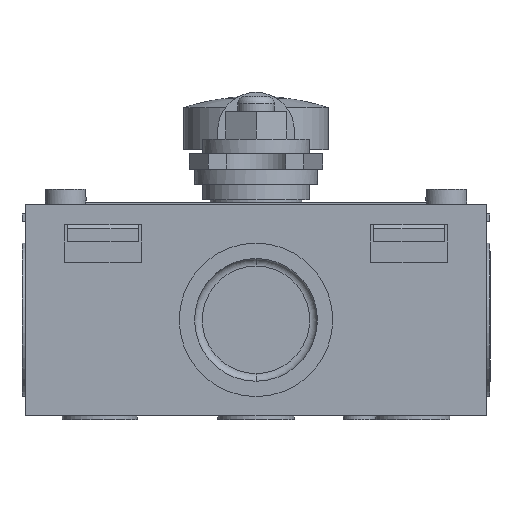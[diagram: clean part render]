
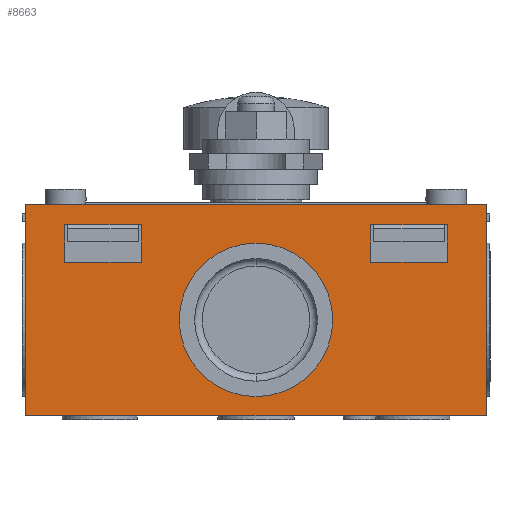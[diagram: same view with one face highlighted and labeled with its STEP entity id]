
A CAD part, front view. The second image highlights one B-rep face of the part: STEP entity #8663.
In plain terms, the highlighted planar face has unit normal (0, -1, 0).
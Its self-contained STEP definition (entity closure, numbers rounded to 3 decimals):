
#669 = EDGE_CURVE ( 'NONE', #908, #8759, #4014, .T. ) ;
#767 = EDGE_CURVE ( 'NONE', #8766, #8570, #10434, .T. ) ;
#819 = EDGE_CURVE ( 'NONE', #8751, #908, #4474, .T. ) ;
#831 = EDGE_CURVE ( 'NONE', #1184, #8751, #4510, .T. ) ;
#832 = EDGE_CURVE ( 'NONE', #8759, #1184, #4513, .T. ) ;
#833 = EDGE_CURVE ( 'NONE', #944, #1139, #4516, .T. ) ;
#834 = EDGE_CURVE ( 'NONE', #944, #1271, #4519, .T. ) ;
#835 = EDGE_CURVE ( 'NONE', #1139, #8752, #4522, .T. ) ;
#836 = EDGE_CURVE ( 'NONE', #1075, #1166, #4525, .T. ) ;
#837 = EDGE_CURVE ( 'NONE', #1271, #8752, #4528, .T. ) ;
#838 = EDGE_CURVE ( 'NONE', #1166, #1073, #4531, .T. ) ;
#839 = EDGE_CURVE ( 'NONE', #1075, #1192, #4534, .T. ) ;
#840 = EDGE_CURVE ( 'NONE', #1192, #1073, #4537, .T. ) ;
#841 = EDGE_CURVE ( 'NONE', #8570, #8766, #10451, .T. ) ;
#908 = VERTEX_POINT ( 'NONE', #4704 ) ;
#944 = VERTEX_POINT ( 'NONE', #5189 ) ;
#1073 = VERTEX_POINT ( 'NONE', #5318 ) ;
#1075 = VERTEX_POINT ( 'NONE', #5320 ) ;
#1139 = VERTEX_POINT ( 'NONE', #5384 ) ;
#1166 = VERTEX_POINT ( 'NONE', #5411 ) ;
#1184 = VERTEX_POINT ( 'NONE', #5429 ) ;
#1192 = VERTEX_POINT ( 'NONE', #5437 ) ;
#1271 = VERTEX_POINT ( 'NONE', #5516 ) ;
#1669 = EDGE_LOOP ( 'NONE', ( #2172, #2173 ) ) ;
#1670 = EDGE_LOOP ( 'NONE', ( #2167, #2169, #2168, #2170 ) ) ;
#1671 = EDGE_LOOP ( 'NONE', ( #2163, #2165, #2164, #2166 ) ) ;
#1672 = EDGE_LOOP ( 'NONE', ( #2158, #2161, #2160, #2162 ) ) ;
#2158 = ORIENTED_EDGE ( 'NONE', *, *, #832, .T. ) ;
#2160 = ORIENTED_EDGE ( 'NONE', *, *, #819, .T. ) ;
#2161 = ORIENTED_EDGE ( 'NONE', *, *, #831, .T. ) ;
#2162 = ORIENTED_EDGE ( 'NONE', *, *, #669, .T. ) ;
#2163 = ORIENTED_EDGE ( 'NONE', *, *, #834, .F. ) ;
#2164 = ORIENTED_EDGE ( 'NONE', *, *, #835, .T. ) ;
#2165 = ORIENTED_EDGE ( 'NONE', *, *, #833, .T. ) ;
#2166 = ORIENTED_EDGE ( 'NONE', *, *, #837, .F. ) ;
#2167 = ORIENTED_EDGE ( 'NONE', *, *, #838, .F. ) ;
#2168 = ORIENTED_EDGE ( 'NONE', *, *, #839, .T. ) ;
#2169 = ORIENTED_EDGE ( 'NONE', *, *, #836, .F. ) ;
#2170 = ORIENTED_EDGE ( 'NONE', *, *, #840, .T. ) ;
#2172 = ORIENTED_EDGE ( 'NONE', *, *, #841, .F. ) ;
#2173 = ORIENTED_EDGE ( 'NONE', *, *, #767, .F. ) ;
#4014 = LINE ( 'NONE', #4015, #10834 ) ;
#4015 = CARTESIAN_POINT ( 'NONE',  ( -30., -83.5, -13.75 ) ) ;
#4016 = DIRECTION ( 'NONE',  ( 1., 0., 0. ) ) ;
#4311 = CARTESIAN_POINT ( 'NONE',  ( 0., -83.5, -1.25 ) ) ;
#4318 = DIRECTION ( 'NONE',  ( 0., -1., 0. ) ) ;
#4319 = DIRECTION ( 'NONE',  ( 0., 0., 1. ) ) ;
#4474 = LINE ( 'NONE', #4475, #10701 ) ;
#4475 = CARTESIAN_POINT ( 'NONE',  ( -30., -83.5, -13.75 ) ) ;
#4476 = DIRECTION ( 'NONE',  ( 0., 0., -1. ) ) ;
#4482 = CARTESIAN_POINT ( 'NONE',  ( 0., -83.5, -1.25 ) ) ;
#4510 = LINE ( 'NONE', #4511, #10591 ) ;
#4511 = CARTESIAN_POINT ( 'NONE',  ( -30., -83.5, 13.75 ) ) ;
#4512 = DIRECTION ( 'NONE',  ( -1., 0., 0. ) ) ;
#4513 = LINE ( 'NONE', #4514, #10693 ) ;
#4514 = CARTESIAN_POINT ( 'NONE',  ( 30., -83.5, -13.75 ) ) ;
#4515 = DIRECTION ( 'NONE',  ( 0., 0., 1. ) ) ;
#4516 = LINE ( 'NONE', #4517, #10717 ) ;
#4517 = CARTESIAN_POINT ( 'NONE',  ( 24.95, -83.5, 11.15 ) ) ;
#4518 = DIRECTION ( 'NONE',  ( 0., 0., -1. ) ) ;
#4519 = LINE ( 'NONE', #4520, #10714 ) ;
#4520 = CARTESIAN_POINT ( 'NONE',  ( 24.95, -83.5, 11.15 ) ) ;
#4521 = DIRECTION ( 'NONE',  ( -1., 0., 0. ) ) ;
#4522 = LINE ( 'NONE', #4523, #10628 ) ;
#4523 = CARTESIAN_POINT ( 'NONE',  ( 24.95, -83.5, 6.25 ) ) ;
#4524 = DIRECTION ( 'NONE',  ( -1., 0., 0. ) ) ;
#4525 = LINE ( 'NONE', #4526, #10689 ) ;
#4526 = CARTESIAN_POINT ( 'NONE',  ( -24.95, -83.5, 11.15 ) ) ;
#4527 = DIRECTION ( 'NONE',  ( 0., 0., -1. ) ) ;
#4528 = LINE ( 'NONE', #4529, #10706 ) ;
#4529 = CARTESIAN_POINT ( 'NONE',  ( 14.95, -83.5, 11.15 ) ) ;
#4530 = DIRECTION ( 'NONE',  ( 0., 0., -1. ) ) ;
#4531 = LINE ( 'NONE', #4532, #10592 ) ;
#4532 = CARTESIAN_POINT ( 'NONE',  ( -24.95, -83.5, 6.25 ) ) ;
#4533 = DIRECTION ( 'NONE',  ( 1., 0., 0. ) ) ;
#4534 = LINE ( 'NONE', #4535, #10721 ) ;
#4535 = CARTESIAN_POINT ( 'NONE',  ( -24.95, -83.5, 11.15 ) ) ;
#4536 = DIRECTION ( 'NONE',  ( 1., 0., 0. ) ) ;
#4537 = LINE ( 'NONE', #4538, #10851 ) ;
#4538 = CARTESIAN_POINT ( 'NONE',  ( -14.95, -83.5, 11.15 ) ) ;
#4539 = DIRECTION ( 'NONE',  ( 0., 0., -1. ) ) ;
#4540 = DIRECTION ( 'NONE',  ( 0., -1., 0. ) ) ;
#4541 = DIRECTION ( 'NONE',  ( 0., 0., 1. ) ) ;
#4704 = CARTESIAN_POINT ( 'NONE',  ( -30., -83.5, -13.75 ) ) ;
#5189 = CARTESIAN_POINT ( 'NONE',  ( 24.95, -83.5, 11.15 ) ) ;
#5318 = CARTESIAN_POINT ( 'NONE',  ( -14.95, -83.5, 6.25 ) ) ;
#5320 = CARTESIAN_POINT ( 'NONE',  ( -24.95, -83.5, 11.15 ) ) ;
#5384 = CARTESIAN_POINT ( 'NONE',  ( 24.95, -83.5, 6.25 ) ) ;
#5411 = CARTESIAN_POINT ( 'NONE',  ( -24.95, -83.5, 6.25 ) ) ;
#5429 = CARTESIAN_POINT ( 'NONE',  ( 30., -83.5, 13.75 ) ) ;
#5437 = CARTESIAN_POINT ( 'NONE',  ( -14.95, -83.5, 11.15 ) ) ;
#5516 = CARTESIAN_POINT ( 'NONE',  ( 14.95, -83.5, 11.15 ) ) ;
#6464 = CARTESIAN_POINT ( 'NONE',  ( 0., -83.5, 8.75 ) ) ;
#6680 = PLANE ( 'NONE',  #11257 ) ;
#6681 = CARTESIAN_POINT ( 'NONE',  ( 0., -83.5, 0. ) ) ;
#6682 = DIRECTION ( 'NONE',  ( 0., 1., 0. ) ) ;
#6683 = DIRECTION ( 'NONE',  ( 0., 0., 1. ) ) ;
#6884 = CARTESIAN_POINT ( 'NONE',  ( -30., -83.5, 13.75 ) ) ;
#6885 = CARTESIAN_POINT ( 'NONE',  ( 14.95, -83.5, 6.25 ) ) ;
#6892 = CARTESIAN_POINT ( 'NONE',  ( 30., -83.5, -13.75 ) ) ;
#6899 = CARTESIAN_POINT ( 'NONE',  ( 0., -83.5, -11.25 ) ) ;
#8570 = VERTEX_POINT ( 'NONE', #6464 ) ;
#8663 = ADVANCED_FACE ( 'NONE', ( #11000, #11007, #11318, #11279 ), #6680, .F. ) ;
#8751 = VERTEX_POINT ( 'NONE', #6884 ) ;
#8752 = VERTEX_POINT ( 'NONE', #6885 ) ;
#8759 = VERTEX_POINT ( 'NONE', #6892 ) ;
#8766 = VERTEX_POINT ( 'NONE', #6899 ) ;
#10434 = CIRCLE ( 'NONE', #10789, 10. ) ;
#10451 = CIRCLE ( 'NONE', #10674, 10. ) ;
#10591 = VECTOR ( 'NONE', #4512, 1000. ) ;
#10592 = VECTOR ( 'NONE', #4533, 1000. ) ;
#10628 = VECTOR ( 'NONE', #4524, 1000. ) ;
#10674 = AXIS2_PLACEMENT_3D ( 'NONE', #4482, #4540, #4541 ) ;
#10689 = VECTOR ( 'NONE', #4527, 1000. ) ;
#10693 = VECTOR ( 'NONE', #4515, 1000. ) ;
#10701 = VECTOR ( 'NONE', #4476, 1000. ) ;
#10706 = VECTOR ( 'NONE', #4530, 1000. ) ;
#10714 = VECTOR ( 'NONE', #4521, 1000. ) ;
#10717 = VECTOR ( 'NONE', #4518, 1000. ) ;
#10721 = VECTOR ( 'NONE', #4536, 1000. ) ;
#10789 = AXIS2_PLACEMENT_3D ( 'NONE', #4311, #4318, #4319 ) ;
#10834 = VECTOR ( 'NONE', #4016, 1000. ) ;
#10851 = VECTOR ( 'NONE', #4539, 1000. ) ;
#11000 = FACE_OUTER_BOUND ( 'NONE', #1672, .T. ) ;
#11007 = FACE_BOUND ( 'NONE', #1671, .T. ) ;
#11257 = AXIS2_PLACEMENT_3D ( 'NONE', #6681, #6682, #6683 ) ;
#11279 = FACE_BOUND ( 'NONE', #1669, .T. ) ;
#11318 = FACE_BOUND ( 'NONE', #1670, .T. ) ;
